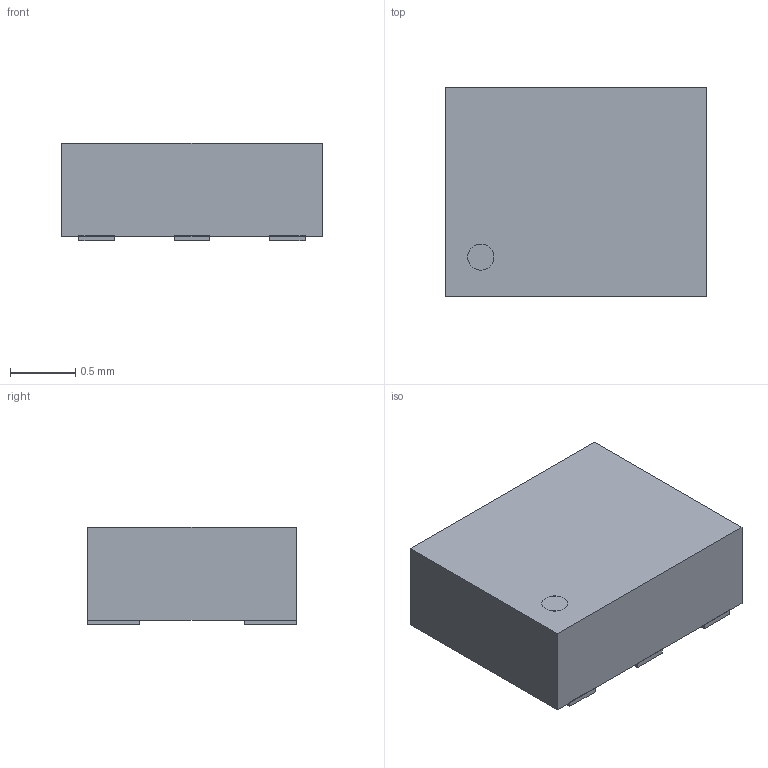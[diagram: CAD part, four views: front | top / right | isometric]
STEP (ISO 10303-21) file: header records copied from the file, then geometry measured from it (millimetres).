
FILE_DESCRIPTION(('Open CASCADE Model'),'2;1');
FILE_NAME('Open CASCADE Shape Model','2026-10-11T19:46:22',('Author'),( 'Open CASCADE'),'Open CASCADE STEP processor 7.7','Open CASCADE 7.7' ,'Unknown');
FILE_SCHEMA(('AUTOMOTIVE_DESIGN { 1 0 10303 214 1 1 1 1 }'));
Length unit declared in the file: millimetre
Products named in the file (8): SiT9501 nominal package body; SiT9501 nominal terminal; Pin1 nominal visual marker
Bounding box: 2 x 1.6 x 0.75 mm (x, y, z)
Volume: 2.3 mm3; surface area: 13.3 mm2
Topology: 8 solids, 8 shells, 45 faces, 87 edges, 58 vertices
Faces by surface type: plane 44, cylinder 1
Full cylindrical faces by diameter (mm): 0.2 x1
Entity records: 2403 total; most frequent: CARTESIAN_POINT 365, DIRECTION 355, LINE 257, VECTOR 257, ORIENTED_EDGE 174, PCURVE 174, DEFINITIONAL_REPRESENTATION 174, EDGE_CURVE 87
